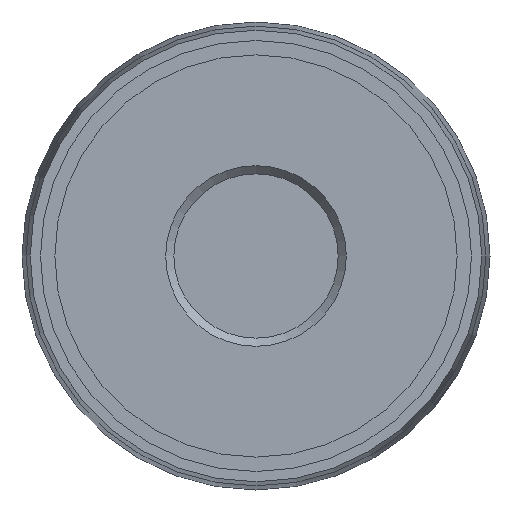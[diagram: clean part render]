
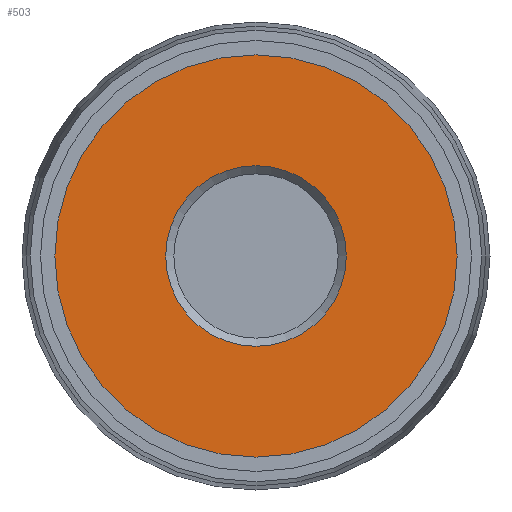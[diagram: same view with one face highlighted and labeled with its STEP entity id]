
A CAD part, front view. The second image highlights one B-rep face of the part: STEP entity #503.
In plain terms, the highlighted planar face has unit normal (0, -1, 0).
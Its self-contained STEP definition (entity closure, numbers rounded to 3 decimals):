
#15=FACE_BOUND('',#76,.T.);
#23=PLANE('',#558);
#45=FACE_OUTER_BOUND('',#75,.T.);
#75=EDGE_LOOP('',(#350,#351));
#76=EDGE_LOOP('',(#352));
#151=CIRCLE('',#552,2.2);
#156=CIRCLE('',#559,4.9);
#157=CIRCLE('',#560,4.9);
#207=VERTEX_POINT('',#833);
#212=VERTEX_POINT('',#847);
#213=VERTEX_POINT('',#848);
#263=EDGE_CURVE('',#207,#207,#151,.T.);
#270=EDGE_CURVE('',#212,#213,#156,.T.);
#271=EDGE_CURVE('',#213,#212,#157,.T.);
#350=ORIENTED_EDGE('',*,*,#270,.T.);
#351=ORIENTED_EDGE('',*,*,#271,.T.);
#352=ORIENTED_EDGE('',*,*,#263,.F.);
#503=ADVANCED_FACE('',(#45,#15),#23,.T.);
#552=AXIS2_PLACEMENT_3D('',#834,#641,#642);
#558=AXIS2_PLACEMENT_3D('',#846,#655,#656);
#559=AXIS2_PLACEMENT_3D('',#849,#657,#658);
#560=AXIS2_PLACEMENT_3D('',#850,#659,#660);
#641=DIRECTION('center_axis',(0.,-1.,0.));
#642=DIRECTION('ref_axis',(-1.,0.,0.));
#655=DIRECTION('center_axis',(0.,-1.,0.));
#656=DIRECTION('ref_axis',(0.,0.,-1.));
#657=DIRECTION('center_axis',(0.,-1.,0.));
#658=DIRECTION('ref_axis',(1.,0.,0.));
#659=DIRECTION('center_axis',(0.,-1.,0.));
#660=DIRECTION('ref_axis',(1.,0.,0.));
#833=CARTESIAN_POINT('',(2.2,0.,0.));
#834=CARTESIAN_POINT('Origin',(0.,0.,0.));
#846=CARTESIAN_POINT('Origin',(0.,0.,0.));
#847=CARTESIAN_POINT('',(4.9,0.,0.));
#848=CARTESIAN_POINT('',(-4.9,0.,0.));
#849=CARTESIAN_POINT('Origin',(0.,0.,0.));
#850=CARTESIAN_POINT('Origin',(0.,0.,0.));
